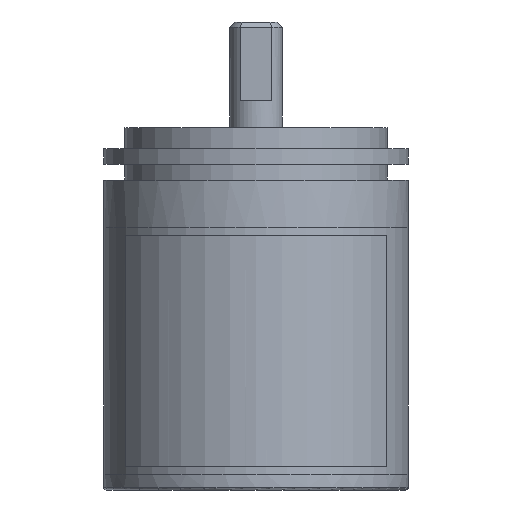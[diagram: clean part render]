
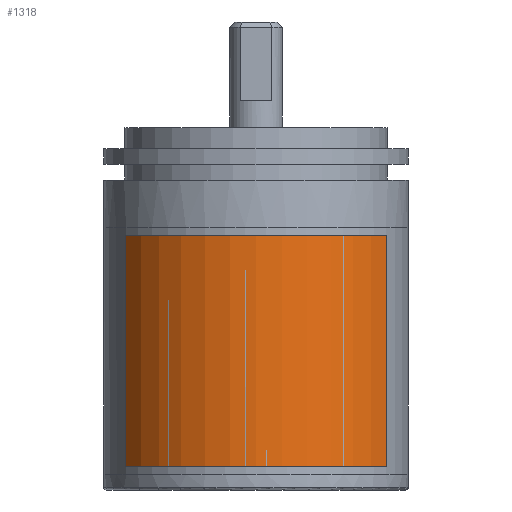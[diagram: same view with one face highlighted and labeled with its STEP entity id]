
A CAD part, front view. The second image highlights one B-rep face of the part: STEP entity #1318.
In plain terms, the highlighted cylindrical face has radius 29.1 mm (diameter 58.2 mm), a partial arc.
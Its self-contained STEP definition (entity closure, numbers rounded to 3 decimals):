
#9 = VERTEX_POINT ( 'NONE', #2588 ) ;
#59 = DIRECTION ( 'NONE',  ( 0., 0., -1. ) ) ;
#72 = CARTESIAN_POINT ( 'NONE',  ( -24.908, -15.047, -20.5 ) ) ;
#295 = CIRCLE ( 'NONE', #2437, 29.1 ) ;
#300 = VERTEX_POINT ( 'NONE', #72 ) ;
#325 = CARTESIAN_POINT ( 'NONE',  ( 0., 0., -64.5 ) ) ;
#395 = ORIENTED_EDGE ( 'NONE', *, *, #1398, .T. ) ;
#561 = DIRECTION ( 'NONE',  ( 1., 0., 0. ) ) ;
#732 = ORIENTED_EDGE ( 'NONE', *, *, #2201, .F. ) ;
#856 = CARTESIAN_POINT ( 'NONE',  ( 0., 0., -20.5 ) ) ;
#928 = VECTOR ( 'NONE', #2559, 1000. ) ;
#966 = CARTESIAN_POINT ( 'NONE',  ( 0., 0., -20.5 ) ) ;
#1071 = CARTESIAN_POINT ( 'NONE',  ( 24.908, -15.047, -20.5 ) ) ;
#1080 = DIRECTION ( 'NONE',  ( 1., 0., 0. ) ) ;
#1224 = VERTEX_POINT ( 'NONE', #2698 ) ;
#1259 = AXIS2_PLACEMENT_3D ( 'NONE', #966, #59, #2735 ) ;
#1278 = CARTESIAN_POINT ( 'NONE',  ( -24.908, -15.047, -20.5 ) ) ;
#1318 = ADVANCED_FACE ( 'NONE', ( #2582 ), #1769, .T. ) ;
#1327 = LINE ( 'NONE', #1278, #1913 ) ;
#1398 = EDGE_CURVE ( 'NONE', #1224, #9, #295, .T. ) ;
#1702 = DIRECTION ( 'NONE',  ( 0., 0., -1. ) ) ;
#1745 = EDGE_LOOP ( 'NONE', ( #395, #2178, #732, #2561 ) ) ;
#1769 = CYLINDRICAL_SURFACE ( 'NONE', #1259, 29.1 ) ;
#1845 = CIRCLE ( 'NONE', #2217, 29.1 ) ;
#1872 = DIRECTION ( 'NONE',  ( 0., 0., 1. ) ) ;
#1913 = VECTOR ( 'NONE', #1702, 1000. ) ;
#2006 = EDGE_CURVE ( 'NONE', #2198, #9, #2615, .T. ) ;
#2178 = ORIENTED_EDGE ( 'NONE', *, *, #2006, .F. ) ;
#2198 = VERTEX_POINT ( 'NONE', #1071 ) ;
#2201 = EDGE_CURVE ( 'NONE', #300, #2198, #1845, .T. ) ;
#2217 = AXIS2_PLACEMENT_3D ( 'NONE', #856, #2395, #1080 ) ;
#2331 = CARTESIAN_POINT ( 'NONE',  ( 24.908, -15.047, -20.5 ) ) ;
#2395 = DIRECTION ( 'NONE',  ( 0., 0., 1. ) ) ;
#2437 = AXIS2_PLACEMENT_3D ( 'NONE', #325, #1872, #561 ) ;
#2559 = DIRECTION ( 'NONE',  ( 0., 0., -1. ) ) ;
#2561 = ORIENTED_EDGE ( 'NONE', *, *, #2716, .T. ) ;
#2582 = FACE_OUTER_BOUND ( 'NONE', #1745, .T. ) ;
#2588 = CARTESIAN_POINT ( 'NONE',  ( 24.908, -15.047, -64.5 ) ) ;
#2615 = LINE ( 'NONE', #2331, #928 ) ;
#2698 = CARTESIAN_POINT ( 'NONE',  ( -24.908, -15.047, -64.5 ) ) ;
#2716 = EDGE_CURVE ( 'NONE', #300, #1224, #1327, .T. ) ;
#2735 = DIRECTION ( 'NONE',  ( -1., 0., 0. ) ) ;
